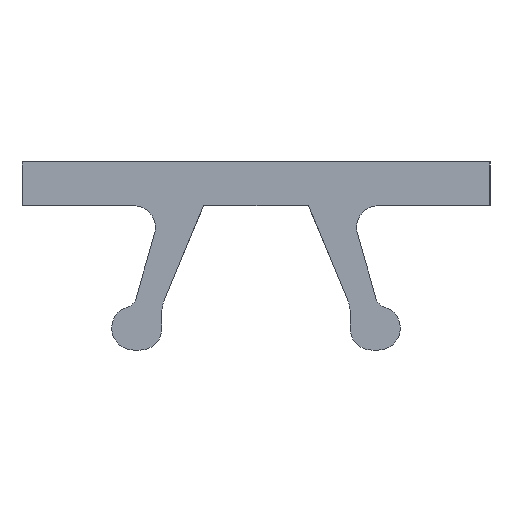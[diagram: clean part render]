
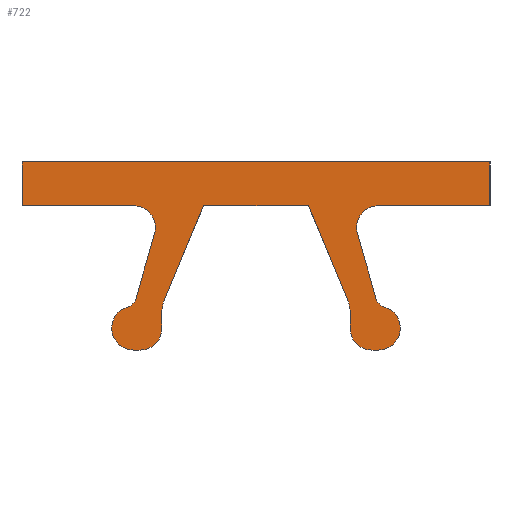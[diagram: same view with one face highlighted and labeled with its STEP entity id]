
A CAD part, left-side view. The second image highlights one B-rep face of the part: STEP entity #722.
In plain terms, the highlighted planar face has unit normal (-1, 0, 0).
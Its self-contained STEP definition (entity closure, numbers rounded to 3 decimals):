
#402=CIRCLE('',#7225,0.5);
#403=CIRCLE('',#7226,0.5);
#404=CIRCLE('',#7227,0.5);
#405=CIRCLE('',#7228,0.3);
#406=CIRCLE('',#7229,0.5);
#407=CIRCLE('',#7230,0.5);
#408=CIRCLE('',#7231,0.3);
#409=CIRCLE('',#7232,0.5);
#410=CIRCLE('',#7233,0.5);
#411=CIRCLE('',#7234,0.5);
#722=ADVANCED_FACE('',(#1286),#964,.T.);
#964=PLANE('',#7235);
#1286=FACE_OUTER_BOUND('',#1618,.T.);
#1618=EDGE_LOOP('',(#3474,#3475,#3476,#3477,#3478,#3479,#3480,#3481,#3482,
#3483,#3484,#3485,#3486,#3487,#3488,#3489,#3490,#3491,#3492,#3493,#3494,
#3495,#3496,#3497));
#3474=ORIENTED_EDGE('',*,*,#5141,.F.);
#3475=ORIENTED_EDGE('',*,*,#5142,.F.);
#3476=ORIENTED_EDGE('',*,*,#5143,.F.);
#3477=ORIENTED_EDGE('',*,*,#5144,.F.);
#3478=ORIENTED_EDGE('',*,*,#5145,.F.);
#3479=ORIENTED_EDGE('',*,*,#5139,.T.);
#3480=ORIENTED_EDGE('',*,*,#5146,.F.);
#3481=ORIENTED_EDGE('',*,*,#5147,.F.);
#3482=ORIENTED_EDGE('',*,*,#5148,.F.);
#3483=ORIENTED_EDGE('',*,*,#5149,.F.);
#3484=ORIENTED_EDGE('',*,*,#5150,.F.);
#3485=ORIENTED_EDGE('',*,*,#5151,.F.);
#3486=ORIENTED_EDGE('',*,*,#5152,.F.);
#3487=ORIENTED_EDGE('',*,*,#5133,.T.);
#3488=ORIENTED_EDGE('',*,*,#5153,.F.);
#3489=ORIENTED_EDGE('',*,*,#5154,.F.);
#3490=ORIENTED_EDGE('',*,*,#5155,.F.);
#3491=ORIENTED_EDGE('',*,*,#5156,.F.);
#3492=ORIENTED_EDGE('',*,*,#5157,.F.);
#3493=ORIENTED_EDGE('',*,*,#5136,.T.);
#3494=ORIENTED_EDGE('',*,*,#5158,.F.);
#3495=ORIENTED_EDGE('',*,*,#5159,.F.);
#3496=ORIENTED_EDGE('',*,*,#5160,.F.);
#3497=ORIENTED_EDGE('',*,*,#5161,.F.);
#4184=VERTEX_POINT('',#10928);
#4185=VERTEX_POINT('',#10930);
#4186=VERTEX_POINT('',#10934);
#4187=VERTEX_POINT('',#10936);
#4188=VERTEX_POINT('',#10940);
#4189=VERTEX_POINT('',#10942);
#4190=VERTEX_POINT('',#10946);
#4191=VERTEX_POINT('',#10947);
#4192=VERTEX_POINT('',#10949);
#4193=VERTEX_POINT('',#10951);
#4194=VERTEX_POINT('',#10953);
#4195=VERTEX_POINT('',#10956);
#4196=VERTEX_POINT('',#10958);
#4197=VERTEX_POINT('',#10960);
#4198=VERTEX_POINT('',#10962);
#4199=VERTEX_POINT('',#10964);
#4200=VERTEX_POINT('',#10966);
#4201=VERTEX_POINT('',#10969);
#4202=VERTEX_POINT('',#10971);
#4203=VERTEX_POINT('',#10973);
#4204=VERTEX_POINT('',#10975);
#4205=VERTEX_POINT('',#10978);
#4206=VERTEX_POINT('',#10980);
#4207=VERTEX_POINT('',#10982);
#5133=EDGE_CURVE('',#4185,#4184,#5915,.T.);
#5136=EDGE_CURVE('',#4187,#4186,#5918,.T.);
#5139=EDGE_CURVE('',#4189,#4188,#5921,.T.);
#5141=EDGE_CURVE('',#4190,#4191,#5923,.T.);
#5142=EDGE_CURVE('',#4192,#4190,#5924,.T.);
#5143=EDGE_CURVE('',#4193,#4192,#402,.T.);
#5144=EDGE_CURVE('',#4194,#4193,#5925,.T.);
#5145=EDGE_CURVE('',#4189,#4194,#403,.T.);
#5146=EDGE_CURVE('',#4195,#4188,#404,.T.);
#5147=EDGE_CURVE('',#4196,#4195,#405,.T.);
#5148=EDGE_CURVE('',#4197,#4196,#5926,.T.);
#5149=EDGE_CURVE('',#4198,#4197,#406,.T.);
#5150=EDGE_CURVE('',#4199,#4198,#5927,.T.);
#5151=EDGE_CURVE('',#4200,#4199,#5928,.T.);
#5152=EDGE_CURVE('',#4185,#4200,#5929,.T.);
#5153=EDGE_CURVE('',#4201,#4184,#5930,.T.);
#5154=EDGE_CURVE('',#4202,#4201,#407,.T.);
#5155=EDGE_CURVE('',#4203,#4202,#5931,.T.);
#5156=EDGE_CURVE('',#4204,#4203,#408,.T.);
#5157=EDGE_CURVE('',#4187,#4204,#409,.T.);
#5158=EDGE_CURVE('',#4205,#4186,#410,.T.);
#5159=EDGE_CURVE('',#4206,#4205,#5932,.T.);
#5160=EDGE_CURVE('',#4207,#4206,#411,.T.);
#5161=EDGE_CURVE('',#4191,#4207,#5933,.T.);
#5915=LINE('',#10929,#6687);
#5918=LINE('',#10935,#6690);
#5921=LINE('',#10941,#6693);
#5923=LINE('',#10945,#6695);
#5924=LINE('',#10948,#6696);
#5925=LINE('',#10952,#6697);
#5926=LINE('',#10959,#6698);
#5927=LINE('',#10963,#6699);
#5928=LINE('',#10965,#6700);
#5929=LINE('',#10967,#6701);
#5930=LINE('',#10968,#6702);
#5931=LINE('',#10972,#6703);
#5932=LINE('',#10979,#6704);
#5933=LINE('',#10983,#6705);
#6687=VECTOR('',#8988,1.);
#6690=VECTOR('',#8993,1.);
#6693=VECTOR('',#8998,1.);
#6695=VECTOR('',#9002,1.);
#6696=VECTOR('',#9003,1.);
#6697=VECTOR('',#9006,1.);
#6698=VECTOR('',#9013,1.);
#6699=VECTOR('',#9016,1.);
#6700=VECTOR('',#9017,1.);
#6701=VECTOR('',#9018,1.);
#6702=VECTOR('',#9019,1.);
#6703=VECTOR('',#9022,1.);
#6704=VECTOR('',#9029,1.);
#6705=VECTOR('',#9032,1.);
#7225=AXIS2_PLACEMENT_3D('',#10950,#9004,#9005);
#7226=AXIS2_PLACEMENT_3D('',#10954,#9007,#9008);
#7227=AXIS2_PLACEMENT_3D('',#10955,#9009,#9010);
#7228=AXIS2_PLACEMENT_3D('',#10957,#9011,#9012);
#7229=AXIS2_PLACEMENT_3D('',#10961,#9014,#9015);
#7230=AXIS2_PLACEMENT_3D('',#10970,#9020,#9021);
#7231=AXIS2_PLACEMENT_3D('',#10974,#9023,#9024);
#7232=AXIS2_PLACEMENT_3D('',#10976,#9025,#9026);
#7233=AXIS2_PLACEMENT_3D('',#10977,#9027,#9028);
#7234=AXIS2_PLACEMENT_3D('',#10981,#9030,#9031);
#7235=AXIS2_PLACEMENT_3D('',#10984,#9033,#9034);
#8988=DIRECTION('',(0.,0.,-1.));
#8993=DIRECTION('',(0.,-1.,0.));
#8998=DIRECTION('',(0.,-1.,0.));
#9002=DIRECTION('',(0.,1.,0.));
#9003=DIRECTION('',(0.,0.383,0.924));
#9004=DIRECTION('',(-1.,0.,0.));
#9005=DIRECTION('',(0.,0.,1.));
#9006=DIRECTION('',(0.,0.,1.));
#9007=DIRECTION('',(1.,0.,0.));
#9008=DIRECTION('',(0.,0.,1.));
#9009=DIRECTION('',(1.,0.,0.));
#9010=DIRECTION('',(0.,0.,1.));
#9011=DIRECTION('',(-1.,0.,0.));
#9012=DIRECTION('',(0.,0.,1.));
#9013=DIRECTION('',(0.,-0.276,-0.961));
#9014=DIRECTION('',(-1.,0.,0.));
#9015=DIRECTION('',(0.,0.,1.));
#9016=DIRECTION('',(0.,1.,0.));
#9017=DIRECTION('',(0.,0.,-1.));
#9018=DIRECTION('',(0.,-1.,0.));
#9019=DIRECTION('',(0.,1.,0.));
#9020=DIRECTION('',(-1.,0.,0.));
#9021=DIRECTION('',(0.,0.,1.));
#9022=DIRECTION('',(0.,-0.276,0.961));
#9023=DIRECTION('',(-1.,0.,0.));
#9024=DIRECTION('',(0.,0.,1.));
#9025=DIRECTION('',(1.,0.,0.));
#9026=DIRECTION('',(0.,0.,1.));
#9027=DIRECTION('',(1.,0.,0.));
#9028=DIRECTION('',(0.,0.,1.));
#9029=DIRECTION('',(0.,0.,-1.));
#9030=DIRECTION('',(-1.,0.,0.));
#9031=DIRECTION('',(0.,0.,1.));
#9032=DIRECTION('',(0.,0.383,-0.924));
#9033=DIRECTION('',(-1.,0.,0.));
#9034=DIRECTION('',(0.,0.,1.));
#10928=CARTESIAN_POINT('',(1359.225,176.12,-1.));
#10929=CARTESIAN_POINT('',(1359.225,176.12,7.));
#10930=CARTESIAN_POINT('',(1359.225,176.12,0.));
#10934=CARTESIAN_POINT('',(1359.225,173.42,-4.3));
#10935=CARTESIAN_POINT('',(1359.225,184.581,-4.3));
#10936=CARTESIAN_POINT('',(1359.225,173.57,-4.3));
#10940=CARTESIAN_POINT('',(1359.225,167.97,-4.3));
#10941=CARTESIAN_POINT('',(1359.225,184.581,-4.3));
#10942=CARTESIAN_POINT('',(1359.225,168.12,-4.3));
#10945=CARTESIAN_POINT('',(1359.225,169.362,-1.));
#10946=CARTESIAN_POINT('',(1359.225,169.57,-1.));
#10947=CARTESIAN_POINT('',(1359.225,171.97,-1.));
#10948=CARTESIAN_POINT('',(1359.225,172.368,5.755));
#10949=CARTESIAN_POINT('',(1359.225,168.658,-3.202));
#10950=CARTESIAN_POINT('',(1359.225,169.12,-3.393));
#10951=CARTESIAN_POINT('',(1359.225,168.62,-3.393));
#10952=CARTESIAN_POINT('',(1359.225,168.62,7.));
#10953=CARTESIAN_POINT('',(1359.225,168.62,-3.8));
#10954=CARTESIAN_POINT('',(1359.225,168.12,-3.8));
#10955=CARTESIAN_POINT('',(1359.225,167.97,-3.8));
#10956=CARTESIAN_POINT('',(1359.225,167.825,-3.321));
#10957=CARTESIAN_POINT('',(1359.225,167.738,-3.034));
#10958=CARTESIAN_POINT('',(1359.225,168.026,-3.117));
#10959=CARTESIAN_POINT('',(1359.225,170.808,6.585));
#10960=CARTESIAN_POINT('',(1359.225,168.45,-1.638));
#10961=CARTESIAN_POINT('',(1359.225,167.97,-1.5));
#10962=CARTESIAN_POINT('',(1359.225,167.97,-1.));
#10963=CARTESIAN_POINT('',(1359.225,169.362,-1.));
#10964=CARTESIAN_POINT('',(1359.225,165.42,-1.));
#10965=CARTESIAN_POINT('',(1359.225,165.42,7.));
#10966=CARTESIAN_POINT('',(1359.225,165.42,0.));
#10967=CARTESIAN_POINT('',(1359.225,184.581,0.));
#10968=CARTESIAN_POINT('',(1359.225,169.362,-1.));
#10969=CARTESIAN_POINT('',(1359.225,173.57,-1.));
#10970=CARTESIAN_POINT('',(1359.225,173.57,-1.5));
#10971=CARTESIAN_POINT('',(1359.225,173.089,-1.638));
#10972=CARTESIAN_POINT('',(1359.225,170.517,7.331));
#10973=CARTESIAN_POINT('',(1359.225,173.513,-3.117));
#10974=CARTESIAN_POINT('',(1359.225,173.801,-3.034));
#10975=CARTESIAN_POINT('',(1359.225,173.714,-3.321));
#10976=CARTESIAN_POINT('',(1359.225,173.57,-3.8));
#10977=CARTESIAN_POINT('',(1359.225,173.42,-3.8));
#10978=CARTESIAN_POINT('',(1359.225,172.92,-3.8));
#10979=CARTESIAN_POINT('',(1359.225,172.92,7.));
#10980=CARTESIAN_POINT('',(1359.225,172.92,-3.393));
#10981=CARTESIAN_POINT('',(1359.225,172.42,-3.393));
#10982=CARTESIAN_POINT('',(1359.225,172.881,-3.202));
#10983=CARTESIAN_POINT('',(1359.225,168.759,6.75));
#10984=CARTESIAN_POINT('',(1359.225,169.362,7.));
